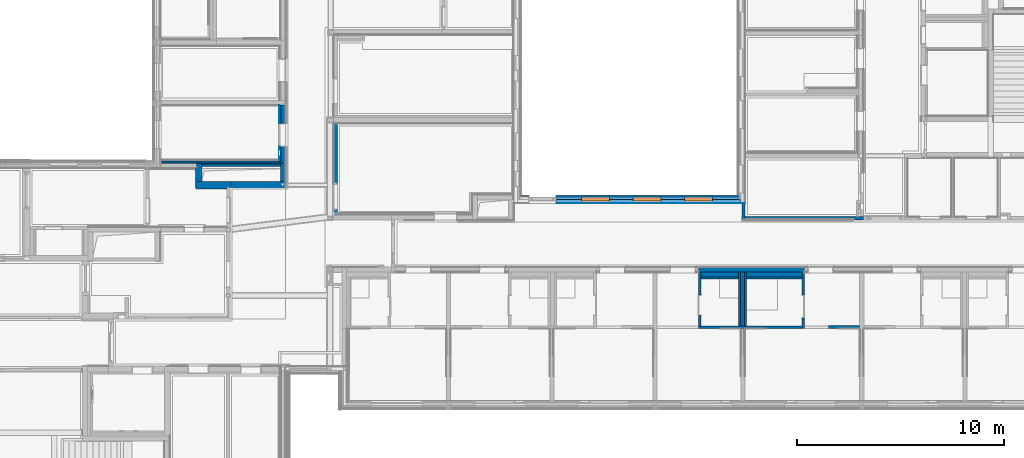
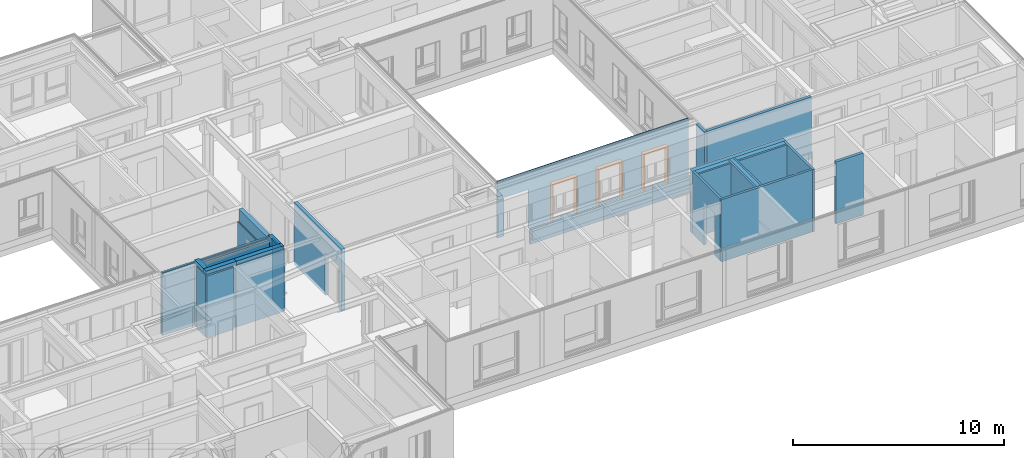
# One storey, part 47 of 207: 35 walls, 3 proxies, 10 openings.
"""IFC4 building model written with IfcOpenShell, lengths in metres."""

from ifc_helpers import new_model, entity, si_unit, converted_unit, derived_unit, frame, frame_2d, origin, origin_with_axes, place, context, subcontext, project, spatial, polyline, rectangle, outline, extrude, faceted_brep, material, element, fill, save


model = new_model("IFC4")

# Units and contexts
model_context = context("Model", 3, precision=1e-05, world=origin())
body_context = subcontext(model_context, "Body", "Model", "MODEL_VIEW")
ifc_project = project(units=[si_unit("LENGTHUNIT", "METRE"), si_unit("AREAUNIT", "SQUARE_METRE"), si_unit("VOLUMEUNIT", "CUBIC_METRE"), si_unit("MASSUNIT", "GRAM", prefix="KILO"), converted_unit("PLANEANGLEUNIT", "DEGREE", entity("IfcPlaneAngleMeasure", 0.0174532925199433), si_unit("PLANEANGLEUNIT", "RADIAN"), dimensions=[0, 0, 0, 0, 0, 0, 0]), derived_unit("THERMALTRANSMITTANCEUNIT", [(si_unit("POWERUNIT", "WATT"), 1), (si_unit("THERMODYNAMICTEMPERATUREUNIT", "KELVIN"), -1), (si_unit("LENGTHUNIT", "METRE"), -2)]), derived_unit("VOLUMETRICFLOWRATEUNIT", [(si_unit("LENGTHUNIT", "METRE"), 3), (converted_unit("TIMEUNIT", "hour", entity("IfcTimeMeasure", 3600.0), si_unit("TIMEUNIT", "SECOND"), dimensions=[0, 0, 1, 0, 0, 0, 0]), -1), (si_unit("LENGTHUNIT", "METRE"), -1)])], contexts=[model_context])

# Site, building, storey
site_placement = place(None, origin())
site = spatial("IfcSite", under=ifc_project, at=site_placement, Name="Psychiatrie Neubau Wunstorf", CompositionType="ELEMENT")
building_placement = place(site_placement, origin())
building = spatial("IfcBuilding", under=site, at=building_placement, Name="Neubau H2 Stationsgebäude", CompositionType="ELEMENT")
storey_placement = place(building_placement, frame((0.0, 0.0, -0.2)))
storey = spatial("IfcBuildingStorey", under=building, at=storey_placement, Name="H2 Ebene 0", CompositionType="ELEMENT", Elevation=-0.2)

# Wall, openings, proxies
ifc_material_1 = material(Name="WA-HS")
wall_1_placement = place(storey_placement, frame((79.499, 8.77400000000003, 0.5), z_axis=(0.0, 0.0, 1.0), x_axis=(1.0, -1.73204094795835e-16, 0.0)))
wall_1 = element("IfcWall", 1, at=wall_1_placement, inside=storey, material=ifc_material_1, context=body_context, shape_type="SweptSolid", body=[
    extrude(rectangle(XDim=10.502, YDim=0.042, at=frame_2d((5.251, 0.021), x_axis=(1.0, 0.0))), origin_with_axes(), (0.0, 0.0, 1.0), 3.3),
])
opening_1_placement = place(wall_1_placement, frame((9.2807, 0.0419999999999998, 0.1), z_axis=(0.0, -1.0, 0.0), x_axis=(0.0, 0.0, 1.0)))
opening_1 = element("IfcOpeningElement", 2, at=opening_1_placement, cuts=wall_1, Name="Fensteröffnung", ObjectType="Opening", context=body_context, shape_type="SweptSolid", body=[
    extrude(outline(polyline([(2.12, 1.35), (2.12, 0.0), (0.0, 0.0), (0.0, 1.35), (2.12, 1.35)])), origin_with_axes(), (0.0, 0.0, 1.0), 0.042),
])
opening_2_placement = place(wall_1_placement, frame((6.7807, 0.0419999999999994, 0.1), z_axis=(0.0, -1.0, 0.0), x_axis=(0.0, 0.0, 1.0)))
opening_2 = element("IfcOpeningElement", 3, at=opening_2_placement, cuts=wall_1, Name="Fensteröffnung", ObjectType="Opening", context=body_context, shape_type="SweptSolid", body=[
    extrude(outline(polyline([(2.12, 1.35), (2.12, 0.0), (0.0, 0.0), (0.0, 1.35), (2.12, 1.35)])), origin_with_axes(), (0.0, 0.0, 1.0), 0.042),
])
opening_3_placement = place(wall_1_placement, frame((4.2807, 0.0420000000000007, 0.1), z_axis=(0.0, -1.0, 0.0), x_axis=(0.0, 0.0, 1.0)))
opening_3 = element("IfcOpeningElement", 4, at=opening_3_placement, cuts=wall_1, Name="Fensteröffnung", ObjectType="Opening", context=body_context, shape_type="SweptSolid", body=[
    extrude(outline(polyline([(2.12, 1.35), (2.12, 0.0), (0.0, 0.0), (0.0, 1.35), (2.12, 1.35)])), origin_with_axes(), (0.0, 0.0, 1.0), 0.042),
])
opening_4_placement = place(wall_1_placement, frame((1.73200000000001, 0.0420000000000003, -0.5), z_axis=(0.0, -1.0, 0.0), x_axis=(0.0, 0.0, 1.0)))
element("IfcOpeningElement", 5, at=opening_4_placement, cuts=wall_1, Name="Türöffnung", ObjectType="Opening", context=body_context, shape_type="SweptSolid", body=[
    extrude(outline(polyline([(2.72, 1.35), (2.72, 0.0), (0.0, 0.0), (0.0, 1.35), (2.72, 1.35)])), origin_with_axes(), (0.0, 0.0, 1.0), 0.042),
])
ifc_material_2 = material(Name="WA-HS")
proxy_1_placement = place(opening_1_placement, frame((0.0, 1.35, 0.275)))
proxy_1 = element("IfcBuildingElementProxy", 6, at=proxy_1_placement, inside=storey, material=ifc_material_2, context=body_context, shape_type="Brep", body=[
    faceted_brep([(0.0, -1.35, -0.275), (0.0, -1.35, 0.0), (2.12, -1.35, 0.0), (2.12, -1.35, -0.275), (0.0, -1.3, 0.0), (0.0, -1.3, -0.275), (2.07, -1.3, -0.275), (2.07, -1.3, 0.0), (2.12, 0.0, 0.0), (2.12, 0.0, -0.275), (0.0, 0.0, -0.275), (0.0, -0.05, -0.275), (2.07, -0.05, -0.275), (2.07, -0.05, 0.0), (0.0, -0.05, 0.0), (0.0, 0.0, 0.0)], [[[0, 1, 2, 3]], [[4, 5, 6, 7]], [[0, 5, 4, 1]], [[3, 2, 8, 9]], [[6, 5, 0, 3, 9, 10, 11, 12]], [[13, 14, 15, 8, 2, 1, 4, 7]], [[7, 6, 12, 13]], [[11, 14, 13, 12]], [[15, 10, 9, 8]], [[11, 10, 15, 14]]], orient=[[False], [False], [False], [False], [False], [False], [False], [False], [False], [False]]),
])
fill(opening_1, proxy_1)
ifc_material_3 = material(Name="WA-HS")
proxy_2_placement = place(opening_2_placement, frame((0.0, 1.35, 0.275)))
proxy_2 = element("IfcBuildingElementProxy", 7, at=proxy_2_placement, inside=storey, material=ifc_material_3, context=body_context, shape_type="Brep", body=[
    faceted_brep([(0.0, -1.35, -0.275), (0.0, -1.35, 0.0), (2.12, -1.35, 0.0), (2.12, -1.35, -0.275), (0.0, -1.3, 0.0), (0.0, -1.3, -0.275), (2.07, -1.3, -0.275), (2.07, -1.3, 0.0), (2.12, 0.0, 0.0), (2.12, 0.0, -0.275), (0.0, 0.0, -0.275), (0.0, -0.05, -0.275), (2.07, -0.05, -0.275), (2.07, -0.05, 0.0), (0.0, -0.05, 0.0), (0.0, 0.0, 0.0)], [[[0, 1, 2, 3]], [[4, 5, 6, 7]], [[0, 5, 4, 1]], [[3, 2, 8, 9]], [[6, 5, 0, 3, 9, 10, 11, 12]], [[13, 14, 15, 8, 2, 1, 4, 7]], [[7, 6, 12, 13]], [[11, 14, 13, 12]], [[15, 10, 9, 8]], [[11, 10, 15, 14]]], orient=[[False], [False], [False], [False], [False], [False], [False], [False], [False], [False]]),
])
fill(opening_2, proxy_2)
ifc_material_4 = material(Name="WA-HS")
proxy_3_placement = place(opening_3_placement, frame((0.0, 1.35, 0.275)))
proxy_3 = element("IfcBuildingElementProxy", 8, at=proxy_3_placement, inside=storey, material=ifc_material_4, context=body_context, shape_type="Brep", body=[
    faceted_brep([(0.0, -1.35, -0.275), (0.0, -1.35, 0.0), (2.12, -1.35, 0.0), (2.12, -1.35, -0.275), (0.0, -1.3, 0.0), (0.0, -1.3, -0.275), (2.07, -1.3, -0.275), (2.07, -1.3, 0.0), (2.12, 0.0, 0.0), (2.12, 0.0, -0.275), (0.0, 0.0, -0.275), (0.0, -0.05, -0.275), (2.07, -0.05, -0.275), (2.07, -0.05, 0.0), (0.0, -0.05, 0.0), (0.0, 0.0, 0.0)], [[[0, 1, 2, 3]], [[4, 5, 6, 7]], [[0, 5, 4, 1]], [[3, 2, 8, 9]], [[6, 5, 0, 3, 9, 10, 11, 12]], [[13, 14, 15, 8, 2, 1, 4, 7]], [[7, 6, 12, 13]], [[11, 14, 13, 12]], [[15, 10, 9, 8]], [[11, 10, 15, 14]]], orient=[[False], [False], [False], [False], [False], [False], [False], [False], [False], [False]]),
])
fill(opening_3, proxy_3)

# Walls
ifc_material_5 = material(Name="WA-LB")
wall_2_placement = place(storey_placement, frame((81.231, 8.41400000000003, 0.0)))
element("IfcWall", 9, at=wall_2_placement, inside=storey, material=ifc_material_5, context=body_context, shape_type="SweptSolid", body=[
    extrude(rectangle(XDim=9.10899999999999, YDim=0.021, at=frame_2d((4.55449999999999, 0.0105), x_axis=(1.0, 0.0))), origin_with_axes(), (0.0, 0.0, 1.0), 0.5),
])
ifc_material_6 = material(Name="WA-STB")
wall_3_placement = place(storey_placement, frame((81.231, 8.43500000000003, 0.0)))
element("IfcWall", 10, at=wall_3_placement, inside=storey, material=ifc_material_6, context=body_context, shape_type="SweptSolid", body=[
    extrude(rectangle(XDim=8.93399999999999, YDim=0.174999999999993, at=frame_2d((4.46699999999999, 0.0874999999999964), x_axis=(1.0, 0.0))), origin_with_axes(), (0.0, 0.0, 1.0), 0.5),
])
ifc_material_7 = material(Name="WA-DE")
wall_4_placement = place(storey_placement, frame((81.231, 8.61000000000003, -0.36), z_axis=(0.0, 0.0, 1.0), x_axis=(1.0, -8.25500069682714e-16, 0.0)))
element("IfcWall", 11, at=wall_4_placement, inside=storey, material=ifc_material_7, context=body_context, shape_type="SweptSolid", body=[
    extrude(rectangle(XDim=8.81399999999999, YDim=0.120000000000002, at=frame_2d((4.40699999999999, 0.0600000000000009), x_axis=(1.0, 0.0))), origin_with_axes(), (0.0, 0.0, 1.0), 0.86),
])
ifc_material_8 = material(Name="WA-LB")
wall_5_placement = place(storey_placement, frame((81.231, 8.73000000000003, 0.0), z_axis=(0.0, 0.0, 1.0), x_axis=(1.0, -6.20180498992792e-16, 0.0)))
element("IfcWall", 12, at=wall_5_placement, inside=storey, material=ifc_material_8, context=body_context, shape_type="SweptSolid", body=[
    extrude(rectangle(XDim=8.79899999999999, YDim=0.015, at=frame_2d((4.39949999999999, 0.0075), x_axis=(1.0, 0.0))), origin_with_axes(), (0.0, 0.0, 1.0), 0.5),
])

# Wall, opening
ifc_material_9 = material(Name="WI-LB")
wall_6_placement = place(storey_placement, frame((88.1000000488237, 5.1005, 0.0), z_axis=(0.0, 0.0, 1.0), x_axis=(0.0, -1.0, 0.0)))
wall_6 = element("IfcWall", 13, at=wall_6_placement, inside=storey, material=ifc_material_9, context=body_context, shape_type="SweptSolid", body=[
    extrude(rectangle(XDim=2.615, YDim=0.125, at=frame_2d((1.3075, 0.0625), x_axis=(1.0, 0.0))), origin_with_axes(), (0.0, 0.0, 1.0), 3.6),
])
opening_5_placement = place(wall_6_placement, frame((2.115, 0.125, 0.0), z_axis=(0.0, -1.0, 0.0), x_axis=(0.0, 0.0, 1.0)))
element("IfcOpeningElement", 14, at=opening_5_placement, cuts=wall_6, Name="Türöffnung", ObjectType="Opening", context=body_context, shape_type="SweptSolid", body=[
    extrude(outline(polyline([(2.46, 1.01), (2.46, 0.0), (0.0, 0.0), (0.0, 1.01), (2.46, 1.01)])), origin_with_axes(), (0.0, 0.0, 1.0), 0.125),
])

ifc_material_10 = material(Name="WI-LB")
wall_7_placement = place(storey_placement, frame((93.1000000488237, 5.1005, 0.0), z_axis=(0.0, 0.0, 1.0), x_axis=(0.0, -1.0, 0.0)))
wall_7 = element("IfcWall", 15, at=wall_7_placement, inside=storey, material=ifc_material_10, context=body_context, shape_type="SweptSolid", body=[
    extrude(rectangle(XDim=2.74, YDim=0.125, at=frame_2d((1.37, 0.0625), x_axis=(1.0, 0.0))), origin_with_axes(), (0.0, 0.0, 1.0), 3.6),
])
opening_6_placement = place(wall_7_placement, frame((1.105, 0.0, 0.0), z_axis=(0.0, 1.0, 0.0), x_axis=(0.0, 0.0, 1.0)))
element("IfcOpeningElement", 16, at=opening_6_placement, cuts=wall_7, Name="Türöffnung", ObjectType="Opening", context=body_context, shape_type="SweptSolid", body=[
    extrude(outline(polyline([(2.46, 1.135), (2.46, 0.0), (0.0, 0.0), (0.0, 1.135), (2.46, 1.135)])), origin_with_axes(), (0.0, 0.0, 1.0), 0.125),
])

# Walls
ifc_material_11 = material(Name="WI-LB")
wall_8_placement = place(storey_placement, frame((93.1000000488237, 2.4855, 0.0), z_axis=(0.0, 0.0, 1.0), x_axis=(-1.0, 0.0, 0.0)))
element("IfcWall", 17, at=wall_8_placement, inside=storey, material=ifc_material_11, context=body_context, shape_type="SweptSolid", body=[
    extrude(rectangle(XDim=5.0, YDim=0.125, at=frame_2d((2.5, 0.0625), x_axis=(1.0, 0.0))), origin_with_axes(), (0.0, 0.0, 1.0), 3.6),
])
ifc_material_12 = material(Name="WI-LB")
wall_9_placement = place(storey_placement, frame((67.86, 10.3459996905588, 0.0), z_axis=(0.0, 0.0, 1.0), x_axis=(-1.0, 0.0, 0.0)))
element("IfcWall", 18, at=wall_9_placement, inside=storey, material=ifc_material_12, context=body_context, shape_type="SweptSolid", body=[
    extrude(rectangle(XDim=3.79999999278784, YDim=0.15, at=frame_2d((1.89999999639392, 0.075), x_axis=(1.0, 0.0))), origin_with_axes(), (0.0, 0.0, 1.0), 3.6),
])
ifc_material_13 = material(Name="WI-STB")
wall_10_placement = place(storey_placement, frame((68.08, 9.48499969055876, 0.0), z_axis=(0.0, 0.0, 1.0), x_axis=(-1.0, 0.0, 0.0)))
element("IfcWall", 19, at=wall_10_placement, inside=storey, material=ifc_material_13, context=body_context, shape_type="SweptSolid", body=[
    extrude(rectangle(XDim=2.60500000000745, YDim=0.25, at=frame_2d((1.30250000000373, 0.125), x_axis=(1.0, 0.0))), origin_with_axes(), (0.0, 0.0, 1.0), 3.8),
])
ifc_material_14 = material(Name="WI-LB")
wall_11_placement = place(storey_placement, frame((68.1175, 9.23499969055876, 0.0), z_axis=(0.0, 0.0, 1.0), x_axis=(-1.0, 0.0, 0.0)))
element("IfcWall", 20, at=wall_11_placement, inside=storey, material=ifc_material_14, context=body_context, shape_type="SweptSolid", body=[
    extrude(rectangle(XDim=2.69250366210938, YDim=0.0299996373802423, at=frame_2d((1.34625183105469, 0.0149998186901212), x_axis=(1.0, 0.0))), origin_with_axes(), (0.0, 0.0, 1.0), 3.6),
])
ifc_material_15 = material(Name="WI-STB")
wall_12_placement = place(storey_placement, frame((67.86, 10.3459996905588, 0.0), z_axis=(0.0, 0.0, 1.0), x_axis=(0.0, -1.0, 0.0)))
element("IfcWall", 21, at=wall_12_placement, inside=storey, material=ifc_material_15, context=body_context, shape_type="SweptSolid", body=[
    extrude(rectangle(XDim=0.861, YDim=0.22, at=frame_2d((0.4305, 0.11), x_axis=(1.0, 0.0))), origin_with_axes(), (0.0, 0.0, 1.0), 3.8),
])
ifc_material_16 = material(Name="WI-LB")
wall_13_placement = place(storey_placement, frame((68.08, 10.3459996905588, 0.0), z_axis=(0.0, 0.0, 1.0), x_axis=(0.0, -1.0, 0.0)))
element("IfcWall", 22, at=wall_13_placement, inside=storey, material=ifc_material_16, context=body_context, shape_type="SweptSolid", body=[
    extrude(rectangle(XDim=1.111, YDim=0.0375, at=frame_2d((0.5555, 0.01875), x_axis=(1.0, 0.0))), origin_with_axes(), (0.0, 0.0, 1.0), 3.6),
])
ifc_material_17 = material(Name="WI-LB")
wall_14_placement = place(storey_placement, frame((90.361, 7.62499989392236, 0.0), z_axis=(0.0, 0.0, 1.0), x_axis=(0.0, 1.0, 0.0)))
element("IfcWall", 23, at=wall_14_placement, inside=storey, material=ifc_material_17, context=body_context, shape_type="SweptSolid", body=[
    extrude(rectangle(XDim=0.789000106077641, YDim=0.15, at=frame_2d((0.394500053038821, 0.075), x_axis=(1.0, 0.0))), origin_with_axes(), (0.0, 0.0, 1.0), 3.6),
])
ifc_material_18 = material(Name="WI-LB")
wall_15_placement = place(storey_placement, frame((96.0825000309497, 7.77499989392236, 0.0), z_axis=(0.0, 0.0, 1.0), x_axis=(-1.0, 0.0, 0.0)))
element("IfcWall", 24, at=wall_15_placement, inside=storey, material=ifc_material_18, context=body_context, shape_type="SweptSolid", body=[
    extrude(rectangle(XDim=5.72150003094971, YDim=0.15, at=frame_2d((2.86075001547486, 0.075), x_axis=(1.0, 0.0))), origin_with_axes(), (0.0, 0.0, 1.0), 3.6),
])
ifc_material_19 = material(Name="WI-STB")
wall_16_placement = place(storey_placement, frame((64.0600000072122, 9.48499969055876, 0.0), z_axis=(0.0, 0.0, 1.0), x_axis=(0.0, 1.0, 0.0)))
element("IfcWall", 25, at=wall_16_placement, inside=storey, material=ifc_material_19, context=body_context, shape_type="SweptSolid", body=[
    extrude(rectangle(XDim=0.861, YDim=0.25, at=frame_2d((0.4305, 0.125), x_axis=(1.0, 0.0))), origin_with_axes(), (0.0, 0.0, 1.0), 3.8),
])
ifc_material_20 = material(Name="WI-LB")
wall_17_placement = place(storey_placement, frame((95.9, 2.51050000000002, 0.0), z_axis=(0.0, 0.0, 1.0), x_axis=(-1.0, 0.0, 0.0)))
element("IfcWall", 26, at=wall_17_placement, inside=storey, material=ifc_material_20, context=body_context, shape_type="SweptSolid", body=[
    extrude(rectangle(XDim=1.5, YDim=0.15, at=frame_2d((0.75, 0.075), x_axis=(1.0, 0.0))), origin_with_axes(), (0.0, 0.0, 1.0), 3.6),
])
ifc_material_21 = material(Name="WI-HW 60")
wall_18_placement = place(storey_placement, frame((93.2250000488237, 5.3325, 0.0), z_axis=(0.0, 0.0, 1.0), x_axis=(-1.0, 1.77462381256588e-16, 0.0)))
element("IfcWall", 27, at=wall_18_placement, inside=storey, material=ifc_material_21, context=body_context, shape_type="SweptSolid", body=[
    extrude(rectangle(XDim=5.12499998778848, YDim=0.232, at=frame_2d((2.56249999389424, 0.116), x_axis=(1.0, 0.0))), origin_with_axes(), (0.0, 0.0, 1.0), 3.6),
])
ifc_material_22 = material(Name="WI-IW")
wall_19_placement = place(storey_placement, frame((67.8855, 10.5209933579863, 0.0), z_axis=(0.0, 0.0, 1.0), x_axis=(-0.999999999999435, 1.06342535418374e-06, 0.0)))
element("IfcWall", 28, at=wall_19_placement, inside=storey, material=ifc_material_22, context=body_context, shape_type="SweptSolid", body=[
    extrude(rectangle(XDim=5.82449980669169, YDim=0.1, at=frame_2d((2.91224990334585, 0.0500000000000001), x_axis=(1.0, 0.0))), origin_with_axes(), (0.0, 0.0, 1.0), 3.6),
])
ifc_material_23 = material(Name="Installationsraum")
wall_20_placement = place(storey_placement, frame((67.8855, 10.4209933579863, 0.0), z_axis=(0.0, 0.0, 1.0), x_axis=(-0.999999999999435, 1.06342535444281e-06, 0.0)))
element("IfcWall", 29, at=wall_20_placement, inside=storey, material=ifc_material_23, context=body_context, shape_type="SweptSolid", body=[
    extrude(outline(polyline([(-5.82449991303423, -0.0749998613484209), (0.0, -0.0749998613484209), (0.0, 0.0), (-5.8244999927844, -6.19392096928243e-06), (-5.82449991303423, -0.0749998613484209)])), frame((5.82449991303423, 0.0749998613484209, 0.0), z_axis=(0.0, 0.0, 1.0), x_axis=(1.0, 0.0, 0.0)), (0.0, 0.0, 1.0), 3.6),
])
ifc_material_24 = material(Name="WI-LB")
wall_21_placement = place(storey_placement, frame((63.8100000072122, 9.20999969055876, 0.0), z_axis=(0.0, 0.0, 1.0), x_axis=(0.0, 1.0, 0.0)))
element("IfcWall", 30, at=wall_21_placement, inside=storey, material=ifc_material_24, context=body_context, shape_type="SweptSolid", body=[
    extrude(rectangle(XDim=0.864, YDim=0.0299996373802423, at=frame_2d((0.432, 0.0149998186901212), x_axis=(1.0, 0.0))), origin_with_axes(), (0.0, 0.0, 1.0), 3.6),
])

# Wall, opening
ifc_material_25 = material(Name="WI-LB")
wall_22_placement = place(storey_placement, frame((70.429999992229, 12.354, 0.0), z_axis=(0.0, 0.0, 1.0), x_axis=(3.51229628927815e-09, -1.0, 0.0)))
wall_22 = element("IfcWall", 31, at=wall_22_placement, inside=storey, material=ifc_material_25, context=body_context, shape_type="SweptSolid", body=[
    extrude(outline(polyline([(-4.51450000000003, 1.58562615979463e-08), (0.0, 1.58562615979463e-08), (0.0, 0.19), (-4.51449999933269, 0.190000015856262), (-4.51450000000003, 1.58562615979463e-08)])), frame((4.51450000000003, -1.58562615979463e-08, 0.0), z_axis=(0.0, 0.0, 1.0), x_axis=(1.0, 0.0, 0.0)), (0.0, 0.0, 1.0), 3.6),
])
opening_7_placement = place(wall_22_placement, frame((4.23899587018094, 0.189999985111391, 0.0), z_axis=(-3.51229621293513e-09, -1.0, 0.0), x_axis=(0.0, 0.0, 1.0)))
element("IfcOpeningElement", 32, at=opening_7_placement, cuts=wall_22, Name="Türöffnung", ObjectType="Opening", context=body_context, shape_type="SweptSolid", body=[
    extrude(outline(polyline([(2.46, 1.26), (2.46, 0.0), (0.0, 0.0), (0.0, 1.26), (2.46, 1.26)])), origin_with_axes(), (0.0, 0.0, 1.0), 0.19),
])

# Walls
ifc_material_26 = material(Name="WI-STB")
wall_23_placement = place(storey_placement, frame((65.4749999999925, 9.48499969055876, 0.0), z_axis=(0.0, 0.0, 1.0), x_axis=(-1.0, 0.0, 0.0)))
element("IfcWall", 33, at=wall_23_placement, inside=storey, material=ifc_material_26, context=body_context, shape_type="SweptSolid", body=[
    extrude(rectangle(XDim=1.66499999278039, YDim=0.25, at=frame_2d((0.832499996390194, 0.125), x_axis=(1.0, 0.0))), origin_with_axes(), (0.0, 0.0, 1.0), 3.8),
])
ifc_material_27 = material(Name="WI-IW")
wall_24_placement = place(storey_placement, frame((63.7800003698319, 9.10999969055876, 0.0)))
element("IfcWall", 34, at=wall_24_placement, inside=storey, material=ifc_material_27, context=body_context, shape_type="SweptSolid", body=[
    extrude(rectangle(XDim=1.4949959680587, YDim=0.1, at=frame_2d((0.747497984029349, 0.05), x_axis=(1.0, 0.0))), origin_with_axes(), (0.0, 0.0, 1.0), 3.6),
])
ifc_material_28 = material(Name="Installationsraum")
wall_25_placement = place(storey_placement, frame((63.8100000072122, 9.20999969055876, 0.0)))
element("IfcWall", 35, at=wall_25_placement, inside=storey, material=ifc_material_28, context=body_context, shape_type="SweptSolid", body=[
    extrude(rectangle(XDim=1.46499633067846, YDim=0.025, at=frame_2d((0.732498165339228, 0.0125), x_axis=(1.0, 0.0))), origin_with_axes(), (0.0, 0.0, 1.0), 3.6),
])
ifc_material_29 = material(Name="WI-IW")
wall_26_placement = place(storey_placement, frame((88.2250000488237, 4.7505, 0.0)))
element("IfcWall", 36, at=wall_26_placement, inside=storey, material=ifc_material_29, context=body_context, shape_type="SweptSolid", body=[
    extrude(rectangle(XDim=1.80000000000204, YDim=0.1, at=frame_2d((0.900000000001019, 0.05), x_axis=(1.0, 0.0))), origin_with_axes(), (0.0, 0.0, 1.0), 3.6),
])
ifc_material_30 = material(Name="Installationsraum")
wall_27_placement = place(storey_placement, frame((88.2250000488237, 4.8505, 0.0)))
element("IfcWall", 37, at=wall_27_placement, inside=storey, material=ifc_material_30, context=body_context, shape_type="SweptSolid", body=[
    extrude(rectangle(XDim=1.80000000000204, YDim=0.25, at=frame_2d((0.900000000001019, 0.125), x_axis=(1.0, 0.0))), origin_with_axes(), (0.0, 0.0, 1.0), 3.6),
])
ifc_material_31 = material(Name="WI-IW")
wall_28_placement = place(storey_placement, frame((90.0250000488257, 5.1005, 0.0), z_axis=(0.0, 0.0, 1.0), x_axis=(0.0, -1.0, 0.0)))
element("IfcWall", 38, at=wall_28_placement, inside=storey, material=ifc_material_31, context=body_context, shape_type="SweptSolid", body=[
    extrude(rectangle(XDim=2.615, YDim=0.1, at=frame_2d((1.3075, 0.05), x_axis=(1.0, 0.0))), origin_with_axes(), (0.0, 0.0, 1.0), 3.6),
])
ifc_material_32 = material(Name="Installationsraum")
wall_29_placement = place(storey_placement, frame((90.1250000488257, 5.1005, 0.0), z_axis=(0.0, 0.0, 1.0), x_axis=(0.0, -1.0, 0.0)))
element("IfcWall", 39, at=wall_29_placement, inside=storey, material=ifc_material_32, context=body_context, shape_type="SweptSolid", body=[
    extrude(rectangle(XDim=2.615, YDim=0.2, at=frame_2d((1.3075, 0.1), x_axis=(1.0, 0.0))), origin_with_axes(), (0.0, 0.0, 1.0), 3.6),
])
ifc_material_33 = material(Name="WI-IW")
wall_30_placement = place(storey_placement, frame((90.3250000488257, 5.1005, 0.0), z_axis=(0.0, 0.0, 1.0), x_axis=(0.0, -1.0, 0.0)))
element("IfcWall", 40, at=wall_30_placement, inside=storey, material=ifc_material_33, context=body_context, shape_type="SweptSolid", body=[
    extrude(rectangle(XDim=2.615, YDim=0.1, at=frame_2d((1.3075, 0.05), x_axis=(1.0, 0.0))), origin_with_axes(), (0.0, 0.0, 1.0), 3.6),
])
ifc_material_34 = material(Name="WI-IW")
wall_31_placement = place(storey_placement, frame((90.4250000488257, 4.7505, 0.0)))
element("IfcWall", 41, at=wall_31_placement, inside=storey, material=ifc_material_34, context=body_context, shape_type="SweptSolid", body=[
    extrude(rectangle(XDim=2.67499999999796, YDim=0.1, at=frame_2d((1.33749999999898, 0.05), x_axis=(1.0, 0.0))), origin_with_axes(), (0.0, 0.0, 1.0), 3.6),
])
ifc_material_35 = material(Name="Installationsraum")
wall_32_placement = place(storey_placement, frame((90.4250000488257, 4.8505, 0.0)))
element("IfcWall", 42, at=wall_32_placement, inside=storey, material=ifc_material_35, context=body_context, shape_type="SweptSolid", body=[
    extrude(rectangle(XDim=2.67499999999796, YDim=0.25, at=frame_2d((1.33749999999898, 0.125), x_axis=(1.0, 0.0))), origin_with_axes(), (0.0, 0.0, 1.0), 3.6),
])

# Wall, opening
ifc_material_36 = material(Name="WI-LB")
wall_33_placement = place(storey_placement, frame((67.796, 13.177496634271, 0.0), z_axis=(0.0, 0.0, 1.0), x_axis=(0.0, -1.0, 0.0)))
wall_33 = element("IfcWall", 43, at=wall_33_placement, inside=storey, material=ifc_material_36, context=body_context, shape_type="SweptSolid", body=[
    extrude(rectangle(XDim=2.65650134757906, YDim=0.0395, at=frame_2d((1.32825067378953, 0.01975), x_axis=(1.0, 0.0))), origin_with_axes(), (0.0, 0.0, 1.0), 2.9),
])
opening_8_placement = place(wall_33_placement, frame((2.01892492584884, 0.0395, 0.0), z_axis=(0.0, -1.0, 0.0), x_axis=(0.0, 0.0, 1.0)))
element("IfcOpeningElement", 44, at=opening_8_placement, cuts=wall_33, Name="Türöffnung", ObjectType="Opening", context=body_context, shape_type="SweptSolid", body=[
    extrude(outline(polyline([(2.46, 1.135), (2.46, 0.0), (0.0, 0.0), (0.0, 1.135), (2.46, 1.135)])), origin_with_axes(), (0.0, 0.0, 1.0), 0.0395),
])

ifc_material_37 = material(Name="Installationsraum")
wall_34_placement = place(storey_placement, frame((67.8355, 13.177496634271, 0.0), z_axis=(0.0, 0.0, 1.0), x_axis=(0.0, -1.0, 0.0)))
wall_34 = element("IfcWall", 45, at=wall_34_placement, inside=storey, material=ifc_material_37, context=body_context, shape_type="SweptSolid", body=[
    extrude(rectangle(XDim=2.73150322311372, YDim=0.050000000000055, at=frame_2d((1.36575161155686, 0.0250000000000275), x_axis=(1.0, 0.0))), origin_with_axes(), (0.0, 0.0, 1.0), 2.9),
])
opening_9_placement = place(wall_34_placement, frame((2.01892492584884, 0.05, 0.0), z_axis=(0.0, -1.0, 0.0), x_axis=(0.0, 0.0, 1.0)))
element("IfcOpeningElement", 46, at=opening_9_placement, cuts=wall_34, Name="Türöffnung", ObjectType="Opening", context=body_context, shape_type="SweptSolid", body=[
    extrude(outline(polyline([(2.46, 1.135), (2.46, 0.0), (0.0, 0.0), (0.0, 1.135), (2.46, 1.135)])), origin_with_axes(), (0.0, 0.0, 1.0), 0.05),
])

ifc_material_38 = material(Name="WI-HW 60")
wall_35_placement = place(storey_placement, frame((67.8855, 13.177496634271, 0.0), z_axis=(0.0, 0.0, 1.0), x_axis=(0.0, -1.0, 0.0)))
wall_35 = element("IfcWall", 47, at=wall_35_placement, inside=storey, material=ifc_material_38, context=body_context, shape_type="SweptSolid", body=[
    extrude(rectangle(XDim=2.83149694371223, YDim=0.232, at=frame_2d((1.41574847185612, 0.116), x_axis=(1.0, 0.0))), origin_with_axes(), (0.0, 0.0, 1.0), 3.6),
])
opening_10_placement = place(wall_35_placement, frame((2.01892492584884, 0.232, 0.0), z_axis=(0.0, -1.0, 0.0), x_axis=(0.0, 0.0, 1.0)))
element("IfcOpeningElement", 48, at=opening_10_placement, cuts=wall_35, Name="Türöffnung", ObjectType="Opening", context=body_context, shape_type="SweptSolid", body=[
    extrude(outline(polyline([(2.46, 1.135), (2.46, 0.0), (0.0, 0.0), (0.0, 1.135), (2.46, 1.135)])), origin_with_axes(), (0.0, 0.0, 1.0), 0.232),
])

save(model, "model.ifc")
